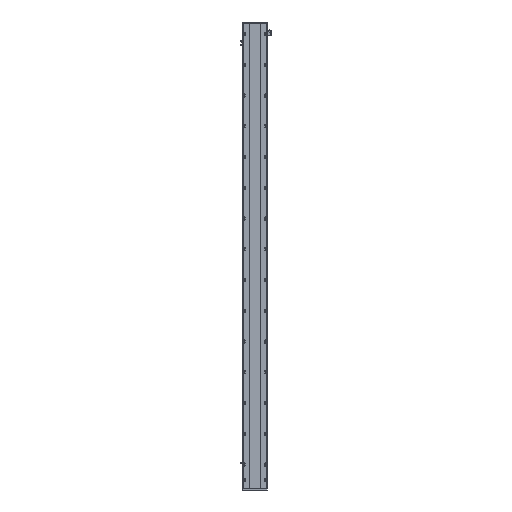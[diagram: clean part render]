
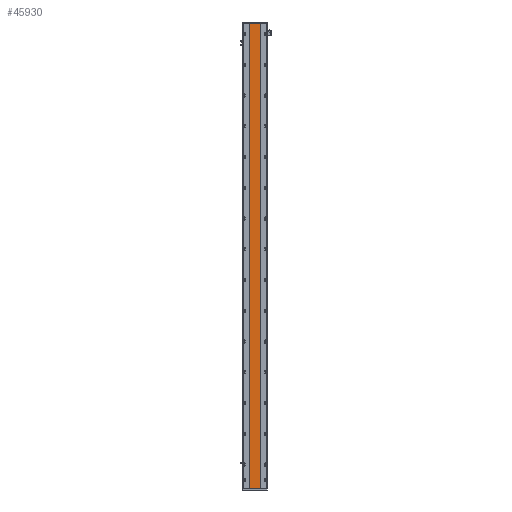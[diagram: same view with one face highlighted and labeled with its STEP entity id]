
A CAD part, front view. The second image highlights one B-rep face of the part: STEP entity #45930.
In plain terms, the highlighted planar face has unit normal (0, -1, 0).
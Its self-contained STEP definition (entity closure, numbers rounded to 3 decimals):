
#1184 = VECTOR ( 'NONE', #43020, 1000. ) ;
#2029 = AXIS2_PLACEMENT_3D ( 'NONE', #15286, #46669, #47163 ) ;
#4220 = CARTESIAN_POINT ( 'NONE',  ( 205.288, 16.9, 0. ) ) ;
#6311 = VECTOR ( 'NONE', #43906, 1000. ) ;
#6743 = EDGE_LOOP ( 'NONE', ( #16968, #11176, #30680, #47779 ) ) ;
#11176 = ORIENTED_EDGE ( 'NONE', *, *, #43279, .F. ) ;
#15286 = CARTESIAN_POINT ( 'NONE',  ( 205.288, 16.9, 3268. ) ) ;
#16968 = ORIENTED_EDGE ( 'NONE', *, *, #46010, .T. ) ;
#18275 = LINE ( 'NONE', #31216, #1184 ) ;
#18440 = CARTESIAN_POINT ( 'NONE',  ( 205.288, 16.9, 3268. ) ) ;
#23642 = CARTESIAN_POINT ( 'NONE',  ( 129.288, 16.9, 3268. ) ) ;
#25247 = FACE_OUTER_BOUND ( 'NONE', #6743, .T. ) ;
#27702 = LINE ( 'NONE', #31754, #6311 ) ;
#30206 = CARTESIAN_POINT ( 'NONE',  ( 129.288, 16.9, 3268. ) ) ;
#30298 = CARTESIAN_POINT ( 'NONE',  ( 129.288, 16.9, 0. ) ) ;
#30680 = ORIENTED_EDGE ( 'NONE', *, *, #35973, .F. ) ;
#31216 = CARTESIAN_POINT ( 'NONE',  ( 129.288, 16.9, 3268. ) ) ;
#31754 = CARTESIAN_POINT ( 'NONE',  ( 205.288, 16.9, 0. ) ) ;
#33830 = CARTESIAN_POINT ( 'NONE',  ( 205.288, 16.9, 3268. ) ) ;
#33831 = VECTOR ( 'NONE', #50701, 1000. ) ;
#35973 = EDGE_CURVE ( 'NONE', #49187, #44360, #44255, .T. ) ;
#37783 = EDGE_CURVE ( 'NONE', #49187, #41693, #18275, .T. ) ;
#41693 = VERTEX_POINT ( 'NONE', #30298 ) ;
#43020 = DIRECTION ( 'NONE',  ( 0., 0., -1. ) ) ;
#43221 = PLANE ( 'NONE',  #2029 ) ;
#43279 = EDGE_CURVE ( 'NONE', #44360, #43921, #50621, .T. ) ;
#43906 = DIRECTION ( 'NONE',  ( 1., 0., 0. ) ) ;
#43921 = VERTEX_POINT ( 'NONE', #4220 ) ;
#44255 = LINE ( 'NONE', #23642, #33831 ) ;
#44360 = VERTEX_POINT ( 'NONE', #33830 ) ;
#45930 = ADVANCED_FACE ( 'NONE', ( #25247 ), #43221, .F. ) ;
#46010 = EDGE_CURVE ( 'NONE', #41693, #43921, #27702, .T. ) ;
#46669 = DIRECTION ( 'NONE',  ( 0., 1., 0. ) ) ;
#47163 = DIRECTION ( 'NONE',  ( -1., 0., 0. ) ) ;
#47779 = ORIENTED_EDGE ( 'NONE', *, *, #37783, .T. ) ;
#48146 = VECTOR ( 'NONE', #49644, 1000. ) ;
#49187 = VERTEX_POINT ( 'NONE', #30206 ) ;
#49644 = DIRECTION ( 'NONE',  ( 0., 0., -1. ) ) ;
#50621 = LINE ( 'NONE', #18440, #48146 ) ;
#50701 = DIRECTION ( 'NONE',  ( 1., 0., 0. ) ) ;
